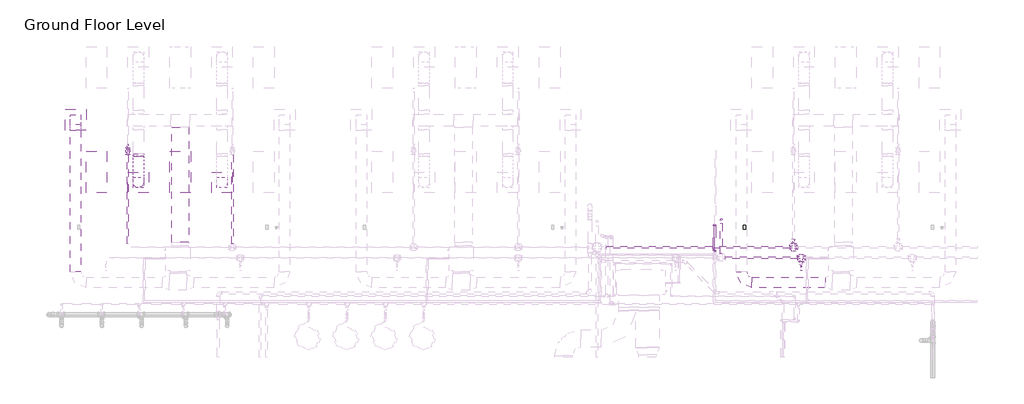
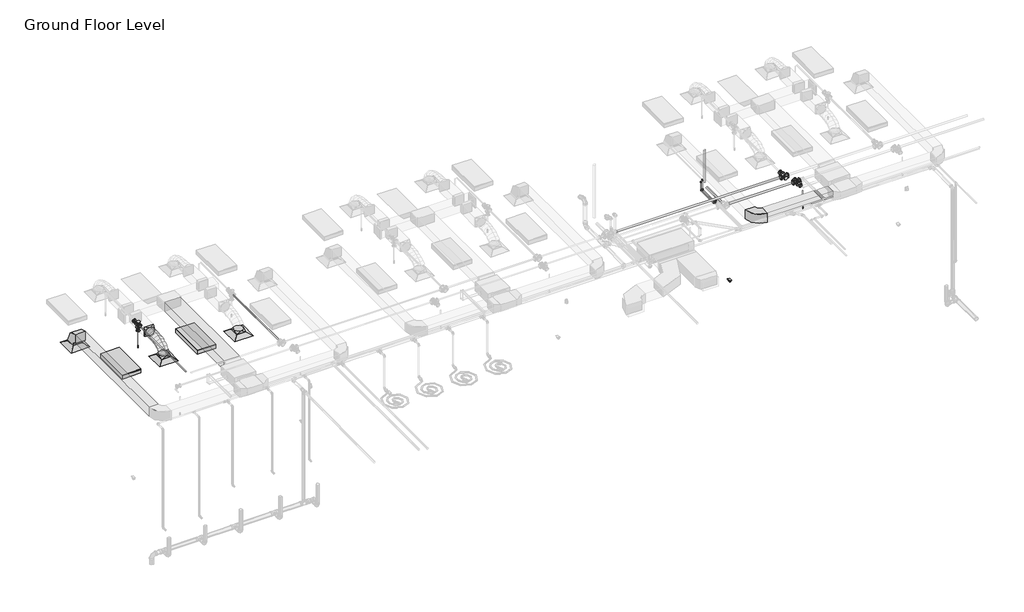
# One storey, part 54 of 74: 15 pipe fittings, 15 pipe segments, 5 duct fittings, 5 duct segments, 3 air terminals, 2 fire suppression terminals, 2 light fixtures, 1 proxy.
"""IFC4 building model written with IfcOpenShell, lengths in millimetres."""

from ifc_helpers import new_model, si_unit, point, frame, frame_2d, origin, place, context, project, spatial, polyline, circle_curve, ellipse_curve, trimmed, segment, composite_curve, outline, extrude, transform, mapped, element, save
from ifc_brep_helpers import plane_surface, cylinder_surface, advanced_brep
from components import m_return_diffuser_600_x_600_face_300_x_300_connection_ff221211, m_duplex_receptacle_standard_10251bba, m_rectangular_elbow_radius_1_w_618da153, m_rectangular_to_round_transition_angle_45_degree_641efff0, m_sprinkler_dry_pendent_hosted_15_mm_dry_pendent_9bda8e11, m_sprinkler_pendent_15_mm_pendent_06fcbd8e, m_troffer_light_parabolic_rectangular1_0600x1200mm_4_lamp_86473d4a, m_elbow_generic_standard_738589b0, m_elbow_generic_standard_463efa77, m_reducer_flanged_cs_class_150_standard_d42b2106, m_reducer_flanged_cs_class_150_standard_a7631c35, m_reducer_flanged_cs_class_150_standard_55262df0, m_tee_round_base_flanged_cs_class_150_standard_dd767e04, m_tee_round_base_flanged_cs_class_150_standard_7e5987a1

model = new_model("IFC4")

# Units and contexts
model_context = context("Model", 3, world=origin())
ifc_project = project(units=[si_unit("LENGTHUNIT", "METRE", prefix="MILLI")], contexts=[model_context])

# Site, building, storey
site = spatial("IfcSite", under=ifc_project)
building = spatial("IfcBuilding", under=site)
storey = spatial("IfcBuildingStorey", under=building, Name="Ground Floor Level", Elevation=900.0)

# Air terminals
placement = place(None, origin())
m_return_diffuser_600_x_600_face_300_x_300_connection_shape = m_return_diffuser_600_x_600_face_300_x_300_connection_ff221211(model_context)
element("IfcAirTerminal", 1, ObjectType="M_Return Diffuser : 600 x 600 Face 300 x 300 Connection", at=placement, inside=storey, context=model_context, shape_type="MappedRepresentation", body=[
    mapped(m_return_diffuser_600_x_600_face_300_x_300_connection_shape, transform((-20937.2327605, 18735.2153534, 3650.0), x_axis=(1.0, 0.0, 0.0), y_axis=(0.0, 1.0, 0.0), z_axis=(0.0, 0.0, 1.0))),
])
element("IfcAirTerminal", 2, ObjectType="M_Supply Diffuser : 600 x 600 Face 300 x 300 Connection", at=placement, inside=storey, context=model_context, shape_type="MappedRepresentation", body=[
    mapped(m_return_diffuser_600_x_600_face_300_x_300_connection_shape, transform((-19137.2327605, 16935.2153534, 3650.0), x_axis=(1.0, 0.0, 0.0), y_axis=(0.0, 1.0, 0.0), z_axis=(0.0, 0.0, 1.0))),
])
element("IfcAirTerminal", 3, ObjectType="M_Supply Diffuser : 600 x 600 Face 300 x 300 Connection", at=placement, inside=storey, context=model_context, shape_type="MappedRepresentation", body=[
    mapped(m_return_diffuser_600_x_600_face_300_x_300_connection_shape, transform((-16737.2327605, 16935.2153534, 3650.0), x_axis=(1.0, 0.0, 0.0), y_axis=(0.0, 1.0, 0.0), z_axis=(0.0, 0.0, 1.0))),
])

# Proxy
m_duplex_receptacle_standard_shape = m_duplex_receptacle_standard_10251bba(model_context)
element("IfcBuildingElementProxy", 4, Name="M_Duplex Receptacle : Standard", ObjectType="M_Duplex Receptacle : Standard", at=placement, inside=storey, context=model_context, shape_type="MappedRepresentation", body=[
    mapped(m_duplex_receptacle_standard_shape, transform((-1747.2327605, 15655.2153534, 1000.0), x_axis=(1.0, 0.0, 0.0), y_axis=(0.0, 1.0, 0.0), z_axis=(0.0, 0.0, 1.0))),
])

# Duct fittings
m_rectangular_elbow_radius_1_w_shape = m_rectangular_elbow_radius_1_w_618da153(model_context)
element("IfcDuctFitting", 5, ObjectType="M_Rectangular Elbow - Radius : 1 W", at=placement, inside=storey, context=model_context, shape_type="MappedRepresentation", body=[
    mapped(m_rectangular_elbow_radius_1_w_shape, transform((-20937.2327605, 18735.2153534, 4075.2881511), x_axis=(0.0, 0.0, 1.0), y_axis=(0.0, -1.0, 0.0), z_axis=(1.0, 0.0, 0.0))),
])
element("IfcDuctFitting", 6, ObjectType="M_Rectangular Elbow - Radius : 1 W", at=placement, inside=storey, context=model_context, shape_type="MappedRepresentation", body=[
    mapped(m_rectangular_elbow_radius_1_w_shape, transform((-1837.2327605, 14069.8153534, 4075.2872564), x_axis=(0.0, -1.0, 0.0), y_axis=(1.0, 0.0, 0.0), z_axis=(0.0, 0.0, 1.0))),
])
m_rectangular_to_round_transition_angle_45_degree_shape = m_rectangular_to_round_transition_angle_45_degree_641efff0(model_context)
element("IfcDuctFitting", 7, ObjectType="M_Rectangular to Round Transition - Angle : 45 Degree", at=placement, inside=storey, context=model_context, shape_type="MappedRepresentation", body=[
    mapped(m_rectangular_to_round_transition_angle_45_degree_shape, transform((-16737.2327605, 16935.2153534, 3751.6), x_axis=(0.0, 0.0, 1.0), y_axis=(-1.0, 0.0, 0.0), z_axis=(0.0, -1.0, 0.0))),
])
element("IfcDuctFitting", 8, ObjectType="M_Rectangular to Round Transition - Angle : 45 Degree", at=placement, inside=storey, context=model_context, shape_type="MappedRepresentation", body=[
    mapped(m_rectangular_to_round_transition_angle_45_degree_shape, transform((-19137.2327605, 16935.2153534, 3751.6), x_axis=(0.0, 0.0, 1.0), y_axis=(-1.0, 0.0, 0.0), z_axis=(0.0, -1.0, 0.0))),
])
element("IfcDuctFitting", 9, ObjectType="M_Rectangular to Round Transition - Angle : 45 Degree", at=placement, inside=storey, context=model_context, shape_type="MappedRepresentation", body=[
    mapped(m_rectangular_to_round_transition_angle_45_degree_shape, transform((-19137.2327605, 17762.5518775, 4099.9994072), x_axis=(0.0, -1.0, 0.0), y_axis=(1.0, 0.0, 0.0), z_axis=(0.0, 0.0, 1.0))),
])

# Duct segments
element("IfcDuctSegment", 10, ObjectType="Flex - Round", at=placement, inside=storey, context=model_context, shape_type="AdvancedBrep", body=[
    advanced_brep(
    [(-18987.2327605, 16935.2153534, 3826.6), (-19137.2327605, 16785.2153534, 3826.6), (-19287.2327605, 16935.2153534, 3826.6), (-19137.2327605, 17085.2153534, 3826.6), (-18987.2327605, 16935.2153534, 3857.9377363), (-19137.2327605, 16785.2153534, 3883.580989), (-19287.2327605, 16935.2153534, 3857.9377363), (-19137.2327605, 17085.2153534, 3832.2944836), (-18987.2327605, 16952.2313024, 3906.2505836), (-19137.2327605, 16818.4933608, 3978.0661859), (-19287.2327605, 16952.2313024, 3906.2505836), (-19137.2327605, 17085.969244, 3834.4349814), (-18987.2327605, 16999.4152275, 3968.711286), (-19137.2327605, 16895.2094297, 4079.6206779), (-19287.2327605, 16999.4152275, 3968.711286), (-19137.2327605, 17103.6210253, 3857.8018941), (-18987.2327605, 17070.9712459, 4016.0699627), (-19137.2327605, 17002.0373501, 4150.3237308), (-19287.2327605, 17070.9712459, 4016.0699627), (-19137.2327605, 17139.9051416, 3881.8161947), (-18987.2327605, 17161.1034747, 4050.4144697), (-19137.2327605, 17117.5428863, 4194.3366298), (-19287.2327605, 17161.1034747, 4050.4144697), (-19137.2327605, 17204.6640631, 3906.4923095), (-18987.2327605, 17264.0160312, 4073.8326625), (-19137.2327605, 17237.4552729, 4221.6232067), (-19287.2327605, 17264.0160312, 4073.8326625), (-19137.2327605, 17290.5767896, 3926.0421182), (-18987.2327605, 17373.9130326, 4088.4123969), (-19137.2327605, 17358.7622742, 4237.7166746), (-19287.2327605, 17373.9130326, 4088.4123969), (-19137.2327605, 17389.0637909, 3939.1081192), (-18987.2327605, 17484.9985959, 4096.2415287), (-19137.2327605, 17477.4933798, 4246.0846519), (-19287.2327605, 17484.9985959, 4096.2415287), (-19137.2327605, 17492.5038121, 3946.3984054), (-18987.2327605, 17591.4768385, 4099.4079135), (-19137.2327605, 17588.7854112, 4249.3941863), (-19287.2327605, 17591.4768385, 4099.4079135), (-19137.2327605, 17594.1682658, 3949.4216408), (-18987.2327605, 17687.5518775, 4099.9994072), (-19137.2327605, 17688.475347, 3950.0022499), (-19287.2327605, 17687.5518775, 4099.9994072), (-19137.2327605, 17686.6284079, 4249.9965645)],
    [
        (0, 1, circle_curve(frame((-19137.2327605, 16935.2153534, 3826.6), z_axis=(0.0, 0.0, -1.0), x_axis=(1.0, 0.0, 0.0)), 150.0)),
        (1, 2, circle_curve(frame((-19137.2327605, 16935.2153534, 3826.6), z_axis=(0.0, 0.0, -1.0), x_axis=(1.0, 0.0, 0.0)), 150.0)),
        (2, 3, circle_curve(frame((-19137.2327605, 16935.2153534, 3826.6), z_axis=(0.0, 0.0, -1.0), x_axis=(1.0, 0.0, 0.0)), 150.0)),
        (3, 0, circle_curve(frame((-19137.2327605, 16935.2153534, 3826.6), z_axis=(0.0, 0.0, -1.0), x_axis=(1.0, 0.0, 0.0)), 150.0)),
        (0, 4),
        (4, 5, ellipse_curve(frame((-19137.2327605, 16935.2153534, 3857.9377363), z_axis=(0.0, -0.1685103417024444, -0.9856998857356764), x_axis=(0.0, 0.9856998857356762, -0.1685103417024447)), 152.1761361, 150.0)),
        (5, 1),
        (5, 6, ellipse_curve(frame((-19137.2327605, 16935.2153534, 3857.9377363), z_axis=(0.0, -0.1685103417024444, -0.9856998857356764), x_axis=(0.0, 0.9856998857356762, -0.1685103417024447)), 152.1761361, 150.0)),
        (6, 2),
        (6, 7, ellipse_curve(frame((-19137.2327605, 16935.2153534, 3857.9377363), z_axis=(0.0, -0.1685103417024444, -0.9856998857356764), x_axis=(0.0, 0.9856998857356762, -0.1685103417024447)), 152.1761361, 150.0)),
        (7, 3),
        (7, 4, ellipse_curve(frame((-19137.2327605, 16935.2153534, 3857.9377363), z_axis=(0.0, -0.1685103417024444, -0.9856998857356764), x_axis=(0.0, 0.9856998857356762, -0.1685103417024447)), 152.1761361, 150.0)),
        (4, 8),
        (8, 9, ellipse_curve(frame((-19137.2327605, 16952.2313024, 3906.2505836), z_axis=(0.0, -0.4730927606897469, -0.8810126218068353), x_axis=(0.0, 0.881012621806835, -0.4730927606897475)), 151.8002561, 150.0)),
        (9, 5),
        (9, 10, ellipse_curve(frame((-19137.2327605, 16952.2313024, 3906.2505836), z_axis=(0.0, -0.4730927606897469, -0.8810126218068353), x_axis=(0.0, 0.881012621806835, -0.4730927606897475)), 151.8002561, 150.0)),
        (10, 6),
        (10, 11, ellipse_curve(frame((-19137.2327605, 16952.2313024, 3906.2505836), z_axis=(0.0, -0.4730927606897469, -0.8810126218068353), x_axis=(0.0, 0.881012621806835, -0.4730927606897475)), 151.8002561, 150.0)),
        (11, 7),
        (11, 8, ellipse_curve(frame((-19137.2327605, 16952.2313024, 3906.2505836), z_axis=(0.0, -0.4730927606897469, -0.8810126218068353), x_axis=(0.0, 0.881012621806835, -0.4730927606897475)), 151.8002561, 150.0)),
        (8, 12),
        (12, 13, ellipse_curve(frame((-19137.2327605, 16999.4152275, 3968.711286), z_axis=(0.0, -0.7287884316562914, -0.6847389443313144), x_axis=(0.0, 0.6847389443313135, -0.7287884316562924)), 152.1832498, 150.0)),
        (13, 9),
        (13, 14, ellipse_curve(frame((-19137.2327605, 16999.4152275, 3968.711286), z_axis=(0.0, -0.7287884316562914, -0.6847389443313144), x_axis=(0.0, 0.6847389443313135, -0.7287884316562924)), 152.1832498, 150.0)),
        (14, 10),
        (14, 15, ellipse_curve(frame((-19137.2327605, 16999.4152275, 3968.711286), z_axis=(0.0, -0.7287884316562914, -0.6847389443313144), x_axis=(0.0, 0.6847389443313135, -0.7287884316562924)), 152.1832498, 150.0)),
        (15, 11),
        (15, 12, ellipse_curve(frame((-19137.2327605, 16999.4152275, 3968.711286), z_axis=(0.0, -0.7287884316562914, -0.6847389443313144), x_axis=(0.0, 0.6847389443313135, -0.7287884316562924)), 152.1832498, 150.0)),
        (12, 16),
        (16, 17, ellipse_curve(frame((-19137.2327605, 17070.9712459, 4016.0699627), z_axis=(0.0, -0.8895864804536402, -0.45676678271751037), x_axis=(0.0, 0.45676678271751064, -0.88958648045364)), 150.9170508, 150.0)),
        (17, 13),
        (17, 18, ellipse_curve(frame((-19137.2327605, 17070.9712459, 4016.0699627), z_axis=(0.0, -0.8895864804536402, -0.45676678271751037), x_axis=(0.0, 0.45676678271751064, -0.88958648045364)), 150.9170508, 150.0)),
        (18, 14),
        (18, 19, ellipse_curve(frame((-19137.2327605, 17070.9712459, 4016.0699627), z_axis=(0.0, -0.8895864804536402, -0.45676678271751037), x_axis=(0.0, 0.45676678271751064, -0.88958648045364)), 150.9170508, 150.0)),
        (19, 15),
        (19, 16, ellipse_curve(frame((-19137.2327605, 17070.9712459, 4016.0699627), z_axis=(0.0, -0.8895864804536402, -0.45676678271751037), x_axis=(0.0, 0.45676678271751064, -0.88958648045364)), 150.9170508, 150.0)),
        (16, 20),
        (20, 21, ellipse_curve(frame((-19137.2327605, 17161.1034747, 4050.4144697), z_axis=(0.0, -0.9571206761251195, -0.2896895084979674), x_axis=(0.0, 0.28968950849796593, -0.9571206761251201)), 150.3699207, 150.0)),
        (21, 17),
        (21, 22, ellipse_curve(frame((-19137.2327605, 17161.1034747, 4050.4144697), z_axis=(0.0, -0.9571206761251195, -0.2896895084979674), x_axis=(0.0, 0.28968950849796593, -0.9571206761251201)), 150.3699207, 150.0)),
        (22, 18),
        (22, 23, ellipse_curve(frame((-19137.2327605, 17161.1034747, 4050.4144697), z_axis=(0.0, -0.9571206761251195, -0.2896895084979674), x_axis=(0.0, 0.28968950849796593, -0.9571206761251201)), 150.3699207, 150.0)),
        (23, 19),
        (23, 20, ellipse_curve(frame((-19137.2327605, 17161.1034747, 4050.4144697), z_axis=(0.0, -0.9571206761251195, -0.2896895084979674), x_axis=(0.0, 0.28968950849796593, -0.9571206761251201)), 150.3699207, 150.0)),
        (20, 24),
        (24, 25, ellipse_curve(frame((-19137.2327605, 17264.0160312, 4073.8326625), z_axis=(0.0, -0.984231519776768, -0.17688503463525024), x_axis=(0.0, 0.17688503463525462, -0.984231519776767)), 150.1583126, 150.0)),
        (25, 21),
        (25, 26, ellipse_curve(frame((-19137.2327605, 17264.0160312, 4073.8326625), z_axis=(0.0, -0.984231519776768, -0.17688503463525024), x_axis=(0.0, 0.17688503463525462, -0.984231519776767)), 150.1583126, 150.0)),
        (26, 22),
        (26, 27, ellipse_curve(frame((-19137.2327605, 17264.0160312, 4073.8326625), z_axis=(0.0, -0.984231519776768, -0.17688503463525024), x_axis=(0.0, 0.17688503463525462, -0.984231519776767)), 150.1583126, 150.0)),
        (27, 23),
        (27, 24, ellipse_curve(frame((-19137.2327605, 17264.0160312, 4073.8326625), z_axis=(0.0, -0.984231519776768, -0.17688503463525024), x_axis=(0.0, 0.17688503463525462, -0.984231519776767)), 150.1583126, 150.0)),
        (24, 28),
        (28, 29, ellipse_curve(frame((-19137.2327605, 17373.9130326, 4088.4123969), z_axis=(0.0, -0.9948907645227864, -0.1009572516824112), x_axis=(0.0, 0.10095725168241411, -0.9948907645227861)), 150.0710259, 150.0)),
        (29, 25),
        (29, 30, ellipse_curve(frame((-19137.2327605, 17373.9130326, 4088.4123969), z_axis=(0.0, -0.9948907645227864, -0.1009572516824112), x_axis=(0.0, 0.10095725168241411, -0.9948907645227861)), 150.0710259, 150.0)),
        (30, 26),
        (30, 31, ellipse_curve(frame((-19137.2327605, 17373.9130326, 4088.4123969), z_axis=(0.0, -0.9948907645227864, -0.1009572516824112), x_axis=(0.0, 0.10095725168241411, -0.9948907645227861)), 150.0710259, 150.0)),
        (31, 27),
        (31, 28, ellipse_curve(frame((-19137.2327605, 17373.9130326, 4088.4123969), z_axis=(0.0, -0.9948907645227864, -0.1009572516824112), x_axis=(0.0, 0.10095725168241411, -0.9948907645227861)), 150.0710259, 150.0)),
        (28, 32),
        (32, 33, ellipse_curve(frame((-19137.2327605, 17484.9985959, 4096.2415287), z_axis=(0.0, -0.9987479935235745, -0.05002444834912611), x_axis=(0.0, 0.050024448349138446, -0.9987479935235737)), 150.030963, 150.0)),
        (33, 29),
        (33, 34, ellipse_curve(frame((-19137.2327605, 17484.9985959, 4096.2415287), z_axis=(0.0, -0.9987479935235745, -0.05002444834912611), x_axis=(0.0, 0.050024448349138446, -0.9987479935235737)), 150.030963, 150.0)),
        (34, 30),
        (34, 35, ellipse_curve(frame((-19137.2327605, 17484.9985959, 4096.2415287), z_axis=(0.0, -0.9987479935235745, -0.05002444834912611), x_axis=(0.0, 0.050024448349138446, -0.9987479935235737)), 150.030963, 150.0)),
        (35, 31),
        (35, 32, ellipse_curve(frame((-19137.2327605, 17484.9985959, 4096.2415287), z_axis=(0.0, -0.9987479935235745, -0.05002444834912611), x_axis=(0.0, 0.050024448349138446, -0.9987479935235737)), 150.030963, 150.0)),
        (32, 36),
        (36, 37, ellipse_curve(frame((-19137.2327605, 17591.4768385, 4099.4079135), z_axis=(0.0, -0.9998390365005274, -0.017941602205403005), x_axis=(0.0, 0.017941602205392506, -0.9998390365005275)), 150.0104189, 150.0)),
        (37, 33),
        (37, 38, ellipse_curve(frame((-19137.2327605, 17591.4768385, 4099.4079135), z_axis=(0.0, -0.9998390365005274, -0.017941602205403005), x_axis=(0.0, 0.017941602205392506, -0.9998390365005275)), 150.0104189, 150.0)),
        (38, 34),
        (38, 39, ellipse_curve(frame((-19137.2327605, 17591.4768385, 4099.4079135), z_axis=(0.0, -0.9998390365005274, -0.017941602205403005), x_axis=(0.0, 0.017941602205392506, -0.9998390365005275)), 150.0104189, 150.0)),
        (39, 35),
        (39, 36, ellipse_curve(frame((-19137.2327605, 17591.4768385, 4099.4079135), z_axis=(0.0, -0.9998390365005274, -0.017941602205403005), x_axis=(0.0, 0.017941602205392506, -0.9998390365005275)), 150.0104189, 150.0)),
        (40, 41, circle_curve(frame((-19137.2327605, 17687.5518775, 4099.9994072), z_axis=(0.0, 0.9999810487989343, 0.006156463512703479), x_axis=(1.0, 0.0, 0.0)), 150.0)),
        (41, 42, circle_curve(frame((-19137.2327605, 17687.5518775, 4099.9994072), z_axis=(0.0, 0.9999810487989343, 0.006156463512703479), x_axis=(1.0, 0.0, 0.0)), 150.0)),
        (42, 43, circle_curve(frame((-19137.2327605, 17687.5518775, 4099.9994072), z_axis=(0.0, 0.9999810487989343, 0.006156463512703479), x_axis=(1.0, 0.0, 0.0)), 150.0)),
        (43, 40, circle_curve(frame((-19137.2327605, 17687.5518775, 4099.9994072), z_axis=(0.0, 0.9999810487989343, 0.006156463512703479), x_axis=(1.0, 0.0, 0.0)), 150.0)),
        (36, 40),
        (43, 37),
        (42, 38),
        (41, 39),
    ],
    [
        plane_surface(frame((-19137.2327605, 16785.2153534, 3826.6), z_axis=(0.0, 0.0, -1.0), x_axis=(1.0, 0.0, 0.0))),
        cylinder_surface(frame((-19137.2327605, 16935.2153534, 3826.6), z_axis=(0.0, 0.0, -1.0), x_axis=(1.0, 0.0, 0.0)), 150.0),
        cylinder_surface(frame((-19137.2327605, 16935.2153534, 3857.9377363), z_axis=(0.0, -0.33220124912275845, -0.9432085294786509), x_axis=(1.0, 0.0, 0.0)), 150.0),
        cylinder_surface(frame((-19137.2327605, 16952.2313024, 3906.2505836), z_axis=(0.0, -0.6027631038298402, -0.7979201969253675), x_axis=(1.0, 0.0, 0.0)), 150.0),
        cylinder_surface(frame((-19137.2327605, 16999.4152275, 3968.711286), z_axis=(0.0, -0.833903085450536, -0.5519109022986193), x_axis=(1.0, 0.0, 0.0)), 150.0),
        cylinder_surface(frame((-19137.2327605, 17070.9712459, 4016.0699627), z_axis=(0.0, -0.9344586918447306, -0.3560715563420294), x_axis=(1.0, 0.0, 0.0)), 150.0),
        cylinder_surface(frame((-19137.2327605, 17161.1034747, 4050.4144697), z_axis=(0.0, -0.9750734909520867, -0.22188214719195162), x_axis=(1.0, 0.0, 0.0)), 150.0),
        cylinder_surface(frame((-19137.2327605, 17264.0160312, 4073.8326625), z_axis=(0.0, -0.9913141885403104, -0.13151494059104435), x_axis=(1.0, 0.0, 0.0)), 150.0),
        cylinder_surface(frame((-19137.2327605, 17373.9130326, 4088.4123969), z_axis=(0.0, -0.9975256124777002, -0.07030400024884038), x_axis=(1.0, 0.0, 0.0)), 150.0),
        cylinder_surface(frame((-19137.2327605, 17484.9985959, 4096.2415287), z_axis=(0.0, -0.9995581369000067, -0.029724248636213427), x_axis=(1.0, 0.0, 0.0)), 150.0),
        plane_surface(frame((-19137.2327605, 17686.6284079, 4249.9965645), z_axis=(0.0, 0.9999810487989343, 0.006156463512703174), x_axis=(1.0, 0.0, 0.0))),
        cylinder_surface(frame((-19137.2327605, 17591.4768385, 4099.4079135), z_axis=(0.0, -0.9999810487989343, -0.006156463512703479), x_axis=(1.0, 0.0, 0.0)), 150.0),
    ],
    [
        (0, [[1, 2, 3, 4]]),
        (1, [[-1, 5, 6, 7]]),
        (1, [[-2, -7, 8, 9]]),
        (1, [[-3, -9, 10, 11]]),
        (1, [[-4, -11, 12, -5]]),
        (2, [[-6, 13, 14, 15]]),
        (2, [[-8, -15, 16, 17]]),
        (2, [[-10, -17, 18, 19]]),
        (2, [[-12, -19, 20, -13]]),
        (3, [[-14, 21, 22, 23]]),
        (3, [[-16, -23, 24, 25]]),
        (3, [[-18, -25, 26, 27]]),
        (3, [[-20, -27, 28, -21]]),
        (4, [[-22, 29, 30, 31]]),
        (4, [[-24, -31, 32, 33]]),
        (4, [[-26, -33, 34, 35]]),
        (4, [[-28, -35, 36, -29]]),
        (5, [[-30, 37, 38, 39]]),
        (5, [[-32, -39, 40, 41]]),
        (5, [[-34, -41, 42, 43]]),
        (5, [[-36, -43, 44, -37]]),
        (6, [[-38, 45, 46, 47]]),
        (6, [[-40, -47, 48, 49]]),
        (6, [[-42, -49, 50, 51]]),
        (6, [[-44, -51, 52, -45]]),
        (7, [[-46, 53, 54, 55]]),
        (7, [[-48, -55, 56, 57]]),
        (7, [[-50, -57, 58, 59]]),
        (7, [[-52, -59, 60, -53]]),
        (8, [[-54, 61, 62, 63]]),
        (8, [[-56, -63, 64, 65]]),
        (8, [[-58, -65, 66, 67]]),
        (8, [[-60, -67, 68, -61]]),
        (9, [[-62, 69, 70, 71]]),
        (9, [[-64, -71, 72, 73]]),
        (9, [[-66, -73, 74, 75]]),
        (9, [[-68, -75, 76, -69]]),
        (10, [[77, 78, 79, 80]]),
        (11, [[-70, 81, -80, 82]]),
        (11, [[-72, -82, -79, 83]]),
        (11, [[-74, -83, -78, 84]]),
        (11, [[-76, -84, -77, -81]]),
    ],
),
])
element("IfcDuctSegment", 11, ObjectType="Radius Elbows / Taps", at=placement, inside=storey, context=model_context, shape_type="SweptSolid", body=[
    extrude(outline(polyline([(-17683.7327605, 15224.0945822), (-18183.7327605, 15224.0945822), (-18183.7327605, 18524.6783949), (-17683.7327605, 18524.6783949), (-17683.7327605, 15224.0945822)])), frame((0.0, 0.0, 3950.0008948), z_axis=(0.0, 0.0, 1.0), x_axis=(1.0, 0.0, 0.0)), (0.0, 0.0, 1.0), 300.0),
])
element("IfcDuctSegment", 12, ObjectType="Radius Elbows / Taps", at=placement, inside=storey, context=model_context, shape_type="SweptSolid", body=[
    extrude(outline(polyline([(-20787.2327605, 14369.8153534), (-21087.2327605, 14369.8153534), (-21087.2327605, 18435.2153534), (-20787.2327605, 18435.2153534), (-20787.2327605, 14369.8153534)])), frame((0.0, 0.0, 3925.2881511), z_axis=(0.0, 0.0, 1.0), x_axis=(1.0, 0.0, 0.0)), (0.0, 0.0, 1.0), 300.0),
])
element("IfcDuctSegment", 13, ObjectType="Radius Elbows / Taps", at=placement, inside=storey, context=model_context, shape_type="SweptSolid", body=[
    extrude(outline(polyline([(-20787.2327605, 18585.2153534), (-21087.2327605, 18585.2153534), (-21087.2327605, 18885.2153534), (-20787.2327605, 18885.2153534), (-20787.2327605, 18585.2153534)])), frame((0.0, 0.0, 3751.6), z_axis=(0.0, 0.0, 1.0), x_axis=(1.0, 0.0, 0.0)), (0.0, 0.0, 1.0), 23.6881511),
])
element("IfcDuctSegment", 14, ObjectType="Radius Elbows / Taps", at=placement, inside=storey, context=model_context, shape_type="SweptSolid", body=[
    extrude(outline(polyline([(-1537.2327605, 13919.8153534), (-1537.2327605, 14219.8153534), (576.4293293, 14219.8153534), (576.4293293, 13919.8153534), (-1537.2327605, 13919.8153534)])), frame((0.0, 0.0, 3925.2872564), z_axis=(0.0, 0.0, 1.0), x_axis=(1.0, 0.0, 0.0)), (0.0, 0.0, 1.0), 300.0),
])

# Fire suppression terminals
m_sprinkler_dry_pendent_hosted_15_mm_dry_pendent_shape = m_sprinkler_dry_pendent_hosted_15_mm_dry_pendent_9bda8e11(model_context)
element("IfcFireSuppressionTerminal", 15, ObjectType="M_Sprinkler - Dry - Pendent - Hosted : 15 mm Dry Pendent", at=placement, inside=storey, context=model_context, shape_type="MappedRepresentation", body=[
    mapped(m_sprinkler_dry_pendent_hosted_15_mm_dry_pendent_shape, transform((-19437.2327605, 17835.2153534, 3650.0), x_axis=(1.0, 0.0, 0.0), y_axis=(0.0, -1.0, 0.0), z_axis=(0.0, 0.0, -1.0))),
])
m_sprinkler_pendent_15_mm_pendent_shape = m_sprinkler_pendent_15_mm_pendent_06fcbd8e(model_context)
element("IfcFireSuppressionTerminal", 16, ObjectType="M_Sprinkler - Pendent : 15 mm Pendent", at=placement, inside=storey, context=model_context, shape_type="MappedRepresentation", body=[
    mapped(m_sprinkler_pendent_15_mm_pendent_shape, transform((-118.3252882, 14412.7243649, 3650.0), x_axis=(1.0, 0.0, 0.0), y_axis=(0.0, 1.0, 0.0), z_axis=(0.0, 0.0, 1.0))),
])

# Light fixtures
m_troffer_light_parabolic_rectangular1_0600x1200mm_4_lamp_shape = m_troffer_light_parabolic_rectangular1_0600x1200mm_4_lamp_86473d4a(model_context)
element("IfcLightFixture", 17, ObjectType="M_Troffer Light - Parabolic Rectangular1 : 0600x1200mm(4 Lamp) - 277V 2", at=placement, inside=storey, context=model_context, shape_type="MappedRepresentation", body=[
    mapped(m_troffer_light_parabolic_rectangular1_0600x1200mm_4_lamp_shape, transform((-20396.6986926, 17253.918855, 3650.0), x_axis=(0.0, 1.0, 0.0), y_axis=(-1.0, 0.0, 0.0), z_axis=(0.0, 0.0, 1.0))),
])
element("IfcLightFixture", 18, ObjectType="M_Troffer Light - Parabolic Rectangular1 : 0600x1200mm(4 Lamp) - 277V 2", at=placement, inside=storey, context=model_context, shape_type="MappedRepresentation", body=[
    mapped(m_troffer_light_parabolic_rectangular1_0600x1200mm_4_lamp_shape, transform((-17996.6986926, 17253.918855, 3650.0), x_axis=(0.0, 1.0, 0.0), y_axis=(-1.0, 0.0, 0.0), z_axis=(0.0, 0.0, 1.0))),
])

# Pipe fittings
m_elbow_generic_standard_shape = m_elbow_generic_standard_738589b0(model_context)
element("IfcPipeFitting", 19, ObjectType="M_Elbow - Generic : Standard", at=placement, inside=storey, context=model_context, shape_type="MappedRepresentation", body=[
    mapped(m_elbow_generic_standard_shape, transform((-2632.5317947, 15715.5935138, 4581.0887163), x_axis=(0.0, 0.0, 1.0), y_axis=(0.0, 1.0, 0.0), z_axis=(-1.0, 0.0, 0.0))),
])
element("IfcPipeFitting", 20, ObjectType="M_Elbow - Generic : Standard", at=placement, inside=storey, context=model_context, shape_type="MappedRepresentation", body=[
    mapped(m_elbow_generic_standard_shape, transform((-2632.5317947, 14990.7777393, 4365.0), x_axis=(0.0, 1.0, 0.0), y_axis=(0.0, 0.0, -1.0), z_axis=(-1.0, 0.0, 0.0))),
])
element("IfcPipeFitting", 21, ObjectType="M_Elbow - Generic : Standard", at=placement, inside=storey, context=model_context, shape_type="MappedRepresentation", body=[
    mapped(m_elbow_generic_standard_shape, transform((-2632.5317947, 15715.5935138, 4300.0), x_axis=(0.0, 0.0, -1.0), y_axis=(0.0, -1.0, 0.0), z_axis=(-1.0, 0.0, 0.0))),
])
element("IfcPipeFitting", 22, ObjectType="M_Elbow - Generic : Standard", at=placement, inside=storey, context=model_context, shape_type="MappedRepresentation", body=[
    mapped(m_elbow_generic_standard_shape, transform((-2632.5317947, 14990.7777393, 4300.0), x_axis=(0.0, 0.0, -1.0), y_axis=(0.0, 1.0, 0.0), z_axis=(1.0, 0.0, 0.0))),
])
m_elbow_generic_standard_2_shape = m_elbow_generic_standard_463efa77(model_context)
element("IfcPipeFitting", 23, ObjectType="M_Elbow - Generic : Standard", at=placement, inside=storey, context=model_context, shape_type="MappedRepresentation", body=[
    mapped(m_elbow_generic_standard_2_shape, transform((-2579.6952605, 15716.2153534, 4634.3568617), x_axis=(0.0, 0.0, 1.0), y_axis=(0.0, 1.0, 0.0), z_axis=(-1.0, 0.0, 0.0))),
])
element("IfcPipeFitting", 24, ObjectType="M_Elbow - Generic : Standard", at=placement, inside=storey, context=model_context, shape_type="MappedRepresentation", body=[
    mapped(m_elbow_generic_standard_2_shape, transform((-2579.6952605, 14974.394156, 4380.0), x_axis=(0.0, 1.0, 0.0), y_axis=(0.0, 0.0, -1.0), z_axis=(-1.0, 0.0, 0.0))),
])
element("IfcPipeFitting", 25, ObjectType="M_Elbow - Generic : Standard", at=placement, inside=storey, context=model_context, shape_type="MappedRepresentation", body=[
    mapped(m_elbow_generic_standard_2_shape, transform((-2579.6952605, 15716.2153534, 4300.0), x_axis=(0.0, 0.0, -1.0), y_axis=(0.0, -1.0, 0.0), z_axis=(-1.0, 0.0, 0.0))),
])
element("IfcPipeFitting", 26, ObjectType="M_Elbow - Generic : Standard", at=placement, inside=storey, context=model_context, shape_type="MappedRepresentation", body=[
    mapped(m_elbow_generic_standard_2_shape, transform((-2579.6952605, 14974.394156, 4300.0), x_axis=(0.0, 0.0, -1.0), y_axis=(0.0, 1.0, 0.0), z_axis=(1.0, 0.0, 0.0))),
])
m_reducer_flanged_cs_class_150_standard_shape = m_reducer_flanged_cs_class_150_standard_d42b2106(model_context)
element("IfcPipeFitting", 27, ObjectType="M_Reducer - Flanged - CS - Class 150 : Standard", at=placement, inside=storey, context=model_context, shape_type="MappedRepresentation", body=[
    mapped(m_reducer_flanged_cs_class_150_standard_shape, transform((-19437.2327605, 17835.2153534, 4259.2914063), x_axis=(0.0, 0.0, -1.0), y_axis=(-1.0, 0.0, 0.0), z_axis=(0.0, 1.0, 0.0))),
])
element("IfcPipeFitting", 28, ObjectType="M_Reducer - Flanged - CS - Class 150 : Standard", at=placement, inside=storey, context=model_context, shape_type="MappedRepresentation", body=[
    mapped(m_reducer_flanged_cs_class_150_standard_shape, transform((-19437.2327605, 17935.9239471, 4360.0), x_axis=(0.0, 1.0, 0.0), y_axis=(-1.0, 0.0, 0.0), z_axis=(0.0, 0.0, 1.0))),
])
m_reducer_flanged_cs_class_150_standard_2_shape = m_reducer_flanged_cs_class_150_standard_a7631c35(model_context)
element("IfcPipeFitting", 29, ObjectType="M_Reducer - Flanged - CS - Class 150 : Standard", at=placement, inside=storey, context=model_context, shape_type="MappedRepresentation", body=[
    mapped(m_reducer_flanged_cs_class_150_standard_2_shape, transform((-337.2327605, 15187.2009828, 4360.0), x_axis=(0.0, 1.0, 0.0), y_axis=(-1.0, 0.0, 0.0), z_axis=(0.0, 0.0, 1.0))),
])
m_reducer_flanged_cs_class_150_standard_3_shape = m_reducer_flanged_cs_class_150_standard_55262df0(model_context)
element("IfcPipeFitting", 30, ObjectType="M_Reducer - Flanged - CS - Class 150 : Standard", at=placement, inside=storey, context=model_context, shape_type="MappedRepresentation", body=[
    mapped(m_reducer_flanged_cs_class_150_standard_3_shape, transform((-118.3252882, 14659.4681847, 4291.0943441), x_axis=(0.0, -1.0, 0.0), y_axis=(1.0, 0.0, 0.0), z_axis=(0.0, 0.0, 1.0))),
])
m_tee_round_base_flanged_cs_class_150_standard_shape = m_tee_round_base_flanged_cs_class_150_standard_dd767e04(model_context)
element("IfcPipeFitting", 31, ObjectType="M_Tee Round Base - Flanged - CS - Class 150 : Standard", at=placement, inside=storey, context=model_context, shape_type="MappedRepresentation", body=[
    mapped(m_tee_round_base_flanged_cs_class_150_standard_shape, transform((-118.3252882, 14773.4681847, 4291.0943441), x_axis=(-1.0, 0.0, 0.0), y_axis=(0.0, 1.0, 0.0), z_axis=(0.0, 0.0, -1.0))),
])
element("IfcPipeFitting", 32, ObjectType="M_Tee Round Base - Flanged - CS - Class 150 : Standard", at=placement, inside=storey, context=model_context, shape_type="MappedRepresentation", body=[
    mapped(m_tee_round_base_flanged_cs_class_150_standard_shape, transform((-337.2327605, 15073.2009828, 4360.0), x_axis=(-1.0, 0.0, 0.0), y_axis=(0.0, -1.0, 0.0), z_axis=(0.0, 0.0, 1.0))),
])
m_tee_round_base_flanged_cs_class_150_standard_2_shape = m_tee_round_base_flanged_cs_class_150_standard_7e5987a1(model_context)
element("IfcPipeFitting", 33, ObjectType="M_Tee Round Base - Flanged - CS - Class 150 : Standard", at=placement, inside=storey, context=model_context, shape_type="MappedRepresentation", body=[
    mapped(m_tee_round_base_flanged_cs_class_150_standard_2_shape, transform((-19437.2327605, 17835.2153534, 4360.0), x_axis=(0.0, 1.0, 0.0), y_axis=(0.0, 0.0, 1.0), z_axis=(1.0, 0.0, 0.0))),
])

# Pipe segments
element("IfcPipeSegment", 34, ObjectType="Copper", at=placement, inside=storey, context=model_context, shape_type="SweptSolid", body=[
    extrude(outline(composite_curve([segment(trimmed(circle_curve(frame_2d((4300.0, -2579.6952605)), 14.5), [point((4300.0, -2594.1952605))], [point((4285.5, -2579.6952605))], False, "CARTESIAN"), True, "CONTINUOUS"), segment(trimmed(circle_curve(frame_2d((4300.0, -2579.6952605)), 14.5), [point((4285.5, -2579.6952605))], [point((4300.0, -2565.1952605))], False, "CARTESIAN"), True, "CONTINUOUS"), segment(trimmed(circle_curve(frame_2d((4300.0, -2579.6952605)), 14.5), [point((4300.0, -2565.1952605))], [point((4314.5, -2579.6952605))], False, "CARTESIAN"), True, "CONTINUOUS"), segment(trimmed(circle_curve(frame_2d((4300.0, -2579.6952605)), 14.5), [point((4314.5, -2579.6952605))], [point((4300.0, -2594.1952605))], False, "CARTESIAN"), True, "CONTINUOUS")], self_intersect=False)), frame((0.0, 14996.619156, 0.0), z_axis=(0.0, 1.0, 0.0), x_axis=(0.0, 0.0, 1.0)), (0.0, 0.0, 1.0), 697.3711973),
])
element("IfcPipeSegment", 35, ObjectType="Copper", at=placement, inside=storey, context=model_context, shape_type="SweptSolid", body=[
    extrude(outline(composite_curve([segment(trimmed(circle_curve(frame_2d((4300.0, -2632.5317947)), 9.75), [point((4300.0, -2642.2817947))], [point((4290.25, -2632.5317947))], False, "CARTESIAN"), True, "CONTINUOUS"), segment(trimmed(circle_curve(frame_2d((4300.0, -2632.5317947)), 9.75), [point((4290.25, -2632.5317947))], [point((4300.0, -2622.7817947))], False, "CARTESIAN"), True, "CONTINUOUS"), segment(trimmed(circle_curve(frame_2d((4300.0, -2632.5317947)), 9.75), [point((4300.0, -2622.7817947))], [point((4309.75, -2632.5317947))], False, "CARTESIAN"), True, "CONTINUOUS"), segment(trimmed(circle_curve(frame_2d((4300.0, -2632.5317947)), 9.75), [point((4309.75, -2632.5317947))], [point((4300.0, -2642.2817947))], False, "CARTESIAN"), True, "CONTINUOUS")], self_intersect=False)), frame((0.0, 15008.2402393, 0.0), z_axis=(0.0, 1.0, 0.0), x_axis=(0.0, 0.0, 1.0)), (0.0, 0.0, 1.0), 689.8907745),
])
element("IfcPipeSegment", 36, ObjectType="Copper", at=placement, inside=storey, context=model_context, shape_type="SweptSolid", body=[
    extrude(outline(composite_curve([segment(trimmed(circle_curve(frame_2d((-2632.5317947, 15715.5935138)), 9.75), [point((-2642.2817947, 15715.5935138))], [point((-2632.5317947, 15725.3435138))], False, "CARTESIAN"), True, "CONTINUOUS"), segment(trimmed(circle_curve(frame_2d((-2632.5317947, 15715.5935138)), 9.75), [point((-2632.5317947, 15725.3435138))], [point((-2622.7817947, 15715.5935138))], False, "CARTESIAN"), True, "CONTINUOUS"), segment(trimmed(circle_curve(frame_2d((-2632.5317947, 15715.5935138)), 9.75), [point((-2622.7817947, 15715.5935138))], [point((-2632.5317947, 15705.8435138))], False, "CARTESIAN"), True, "CONTINUOUS"), segment(trimmed(circle_curve(frame_2d((-2632.5317947, 15715.5935138)), 9.75), [point((-2632.5317947, 15705.8435138))], [point((-2642.2817947, 15715.5935138))], False, "CARTESIAN"), True, "CONTINUOUS")], self_intersect=False)), frame((0.0, 0.0, 4317.4625), z_axis=(0.0, 0.0, 1.0), x_axis=(1.0, 0.0, 0.0)), (0.0, 0.0, 1.0), 246.1637163),
])
element("IfcPipeSegment", 37, ObjectType="Copper", at=placement, inside=storey, context=model_context, shape_type="SweptSolid", body=[
    extrude(outline(composite_curve([segment(trimmed(circle_curve(frame_2d((-2579.6952605, 15716.2153534)), 14.5), [point((-2594.1952605, 15716.2153534))], [point((-2579.6952605, 15730.7153534))], False, "CARTESIAN"), True, "CONTINUOUS"), segment(trimmed(circle_curve(frame_2d((-2579.6952605, 15716.2153534)), 14.5), [point((-2579.6952605, 15730.7153534))], [point((-2565.1952605, 15716.2153534))], False, "CARTESIAN"), True, "CONTINUOUS"), segment(trimmed(circle_curve(frame_2d((-2579.6952605, 15716.2153534)), 14.5), [point((-2565.1952605, 15716.2153534))], [point((-2579.6952605, 15701.7153534))], False, "CARTESIAN"), True, "CONTINUOUS"), segment(trimmed(circle_curve(frame_2d((-2579.6952605, 15716.2153534)), 14.5), [point((-2579.6952605, 15701.7153534))], [point((-2594.1952605, 15716.2153534))], False, "CARTESIAN"), True, "CONTINUOUS")], self_intersect=False)), frame((0.0, 0.0, 4322.225), z_axis=(0.0, 0.0, 1.0), x_axis=(1.0, 0.0, 0.0)), (0.0, 0.0, 1.0), 289.9068617),
])
element("IfcPipeSegment", 38, ObjectType="Copper", at=placement, inside=storey, context=model_context, shape_type="SweptSolid", body=[
    extrude(outline(composite_curve([segment(trimmed(circle_curve(frame_2d((-2579.6952605, 14974.394156)), 14.5), [point((-2565.1952605, 14974.394156))], [point((-2579.6952605, 14959.894156))], False, "CARTESIAN"), True, "CONTINUOUS"), segment(trimmed(circle_curve(frame_2d((-2579.6952605, 14974.394156)), 14.5), [point((-2579.6952605, 14959.894156))], [point((-2594.1952605, 14974.394156))], False, "CARTESIAN"), True, "CONTINUOUS"), segment(trimmed(circle_curve(frame_2d((-2579.6952605, 14974.394156)), 14.5), [point((-2594.1952605, 14974.394156))], [point((-2579.6952605, 14988.894156))], False, "CARTESIAN"), True, "CONTINUOUS"), segment(trimmed(circle_curve(frame_2d((-2579.6952605, 14974.394156)), 14.5), [point((-2579.6952605, 14988.894156))], [point((-2565.1952605, 14974.394156))], False, "CARTESIAN"), True, "CONTINUOUS")], self_intersect=False)), frame((0.0, 0.0, 4322.225), z_axis=(0.0, 0.0, 1.0), x_axis=(1.0, 0.0, 0.0)), (0.0, 0.0, 1.0), 35.55),
])
element("IfcPipeSegment", 39, ObjectType="Copper", at=placement, inside=storey, context=model_context, shape_type="SweptSolid", body=[
    extrude(outline(composite_curve([segment(trimmed(circle_curve(frame_2d((-2632.5317947, 14990.7777393)), 9.75), [point((-2622.7817947, 14990.7777393))], [point((-2632.5317947, 14981.0277393))], False, "CARTESIAN"), True, "CONTINUOUS"), segment(trimmed(circle_curve(frame_2d((-2632.5317947, 14990.7777393)), 9.75), [point((-2632.5317947, 14981.0277393))], [point((-2642.2817947, 14990.7777393))], False, "CARTESIAN"), True, "CONTINUOUS"), segment(trimmed(circle_curve(frame_2d((-2632.5317947, 14990.7777393)), 9.75), [point((-2642.2817947, 14990.7777393))], [point((-2632.5317947, 15000.5277393))], False, "CARTESIAN"), True, "CONTINUOUS"), segment(trimmed(circle_curve(frame_2d((-2632.5317947, 14990.7777393)), 9.75), [point((-2632.5317947, 15000.5277393))], [point((-2622.7817947, 14990.7777393))], False, "CARTESIAN"), True, "CONTINUOUS")], self_intersect=False)), frame((0.0, 0.0, 4317.4625), z_axis=(0.0, 0.0, 1.0), x_axis=(1.0, 0.0, 0.0)), (0.0, 0.0, 1.0), 30.075),
])
element("IfcPipeSegment", 40, ObjectType="Steel flanged", at=placement, inside=storey, context=model_context, shape_type="SweptSolid", body=[
    extrude(outline(composite_curve([segment(trimmed(circle_curve(frame_2d((-118.3252882, 14412.7243649)), 10.668), [point((-128.9932882, 14412.7243649))], [point((-118.3252882, 14423.3923649))], False, "CARTESIAN"), True, "CONTINUOUS"), segment(trimmed(circle_curve(frame_2d((-118.3252882, 14412.7243649)), 10.668), [point((-118.3252882, 14423.3923649))], [point((-107.6572882, 14412.7243649))], False, "CARTESIAN"), True, "CONTINUOUS"), segment(trimmed(circle_curve(frame_2d((-118.3252882, 14412.7243649)), 10.668), [point((-107.6572882, 14412.7243649))], [point((-118.3252882, 14402.0563649))], False, "CARTESIAN"), True, "CONTINUOUS"), segment(trimmed(circle_curve(frame_2d((-118.3252882, 14412.7243649)), 10.668), [point((-118.3252882, 14402.0563649))], [point((-128.9932882, 14412.7243649))], False, "CARTESIAN"), True, "CONTINUOUS")], self_intersect=False)), frame((0.0, 0.0, 3650.0), z_axis=(0.0, 0.0, 1.0), x_axis=(1.0, 0.0, 0.0)), (0.0, 0.0, 1.0), 548.2668816),
])
element("IfcPipeSegment", 41, ObjectType="Steel flanged", at=placement, inside=storey, context=model_context, shape_type="SweptSolid", body=[
    extrude(outline(composite_curve([segment(trimmed(circle_curve(frame_2d((4291.0943441, -118.3252882)), 10.668), [point((4291.0943441, -107.6572882))], [point((4301.7623441, -118.3252882))], False, "CARTESIAN"), True, "CONTINUOUS"), segment(trimmed(circle_curve(frame_2d((4291.0943441, -118.3252882)), 10.668), [point((4301.7623441, -118.3252882))], [point((4291.0943441, -128.9932882))], False, "CARTESIAN"), True, "CONTINUOUS"), segment(trimmed(circle_curve(frame_2d((4291.0943441, -118.3252882)), 10.668), [point((4291.0943441, -128.9932882))], [point((4280.4263441, -118.3252882))], False, "CARTESIAN"), True, "CONTINUOUS"), segment(trimmed(circle_curve(frame_2d((4291.0943441, -118.3252882)), 10.668), [point((4280.4263441, -118.3252882))], [point((4291.0943441, -107.6572882))], False, "CARTESIAN"), True, "CONTINUOUS")], self_intersect=False)), frame((0.0, 14505.7329586, 0.0), z_axis=(0.0, 1.0, 0.0), x_axis=(0.0, 0.0, 1.0)), (0.0, 0.0, 1.0), 26.7352261),
])
element("IfcPipeSegment", 42, ObjectType="Steel flanged", at=placement, inside=storey, context=model_context, shape_type="SweptSolid", body=[
    extrude(outline(composite_curve([segment(trimmed(circle_curve(frame_2d((14773.4681847, 4291.0943441)), 30.1625), [point((14743.3056847, 4291.0943441))], [point((14773.4681847, 4321.2568441))], False, "CARTESIAN"), True, "CONTINUOUS"), segment(trimmed(circle_curve(frame_2d((14773.4681847, 4291.0943441)), 30.1625), [point((14773.4681847, 4321.2568441))], [point((14803.6306847, 4291.0943441))], False, "CARTESIAN"), True, "CONTINUOUS"), segment(trimmed(circle_curve(frame_2d((14773.4681847, 4291.0943441)), 30.1625), [point((14803.6306847, 4291.0943441))], [point((14773.4681847, 4260.9318441))], False, "CARTESIAN"), True, "CONTINUOUS"), segment(trimmed(circle_curve(frame_2d((14773.4681847, 4291.0943441)), 30.1625), [point((14773.4681847, 4260.9318441))], [point((14743.3056847, 4291.0943441))], False, "CARTESIAN"), True, "CONTINUOUS")], self_intersect=False)), frame((-2299.9259545, 0.0, 0.0), z_axis=(1.0, 0.0, 0.0), x_axis=(0.0, 1.0, 0.0)), (0.0, 0.0, 1.0), 2067.6006663),
])
element("IfcPipeSegment", 43, ObjectType="Steel flanged", at=placement, inside=storey, context=model_context, shape_type="SweptSolid", body=[
    extrude(outline(composite_curve([segment(trimmed(circle_curve(frame_2d((4291.0943441, -2413.9259545)), 30.1625), [point((4291.0943441, -2383.7634545))], [point((4321.2568441, -2413.9259545))], False, "CARTESIAN"), True, "CONTINUOUS"), segment(trimmed(circle_curve(frame_2d((4291.0943441, -2413.9259545)), 30.1625), [point((4321.2568441, -2413.9259545))], [point((4291.0943441, -2444.0884545))], False, "CARTESIAN"), True, "CONTINUOUS"), segment(trimmed(circle_curve(frame_2d((4291.0943441, -2413.9259545)), 30.1625), [point((4291.0943441, -2444.0884545))], [point((4260.9318441, -2413.9259545))], False, "CARTESIAN"), True, "CONTINUOUS"), segment(trimmed(circle_curve(frame_2d((4291.0943441, -2413.9259545)), 30.1625), [point((4260.9318441, -2413.9259545))], [point((4291.0943441, -2383.7634545))], False, "CARTESIAN"), True, "CONTINUOUS")], self_intersect=False)), frame((0.0, 14887.4681847, 0.0), z_axis=(0.0, 1.0, 0.0), x_axis=(0.0, 0.0, 1.0)), (0.0, 0.0, 1.0), 871.5409053),
])
element("IfcPipeSegment", 44, ObjectType="Steel flanged", at=placement, inside=storey, context=model_context, shape_type="SweptSolid", body=[
    extrude(outline(composite_curve([segment(trimmed(circle_curve(frame_2d((-2413.9259545, 15873.00909)), 30.1625), [point((-2444.0884545, 15873.00909))], [point((-2413.9259545, 15903.17159))], False, "CARTESIAN"), True, "CONTINUOUS"), segment(trimmed(circle_curve(frame_2d((-2413.9259545, 15873.00909)), 30.1625), [point((-2413.9259545, 15903.17159))], [point((-2383.7634545, 15873.00909))], False, "CARTESIAN"), True, "CONTINUOUS"), segment(trimmed(circle_curve(frame_2d((-2413.9259545, 15873.00909)), 30.1625), [point((-2383.7634545, 15873.00909))], [point((-2413.9259545, 15842.84659))], False, "CARTESIAN"), True, "CONTINUOUS"), segment(trimmed(circle_curve(frame_2d((-2413.9259545, 15873.00909)), 30.1625), [point((-2413.9259545, 15842.84659))], [point((-2444.0884545, 15873.00909))], False, "CARTESIAN"), True, "CONTINUOUS")], self_intersect=False)), frame((0.0, 0.0, 4405.2754753), z_axis=(0.0, 0.0, 1.0), x_axis=(1.0, 0.0, 0.0)), (0.0, 0.0, 1.0), 1080.7245247),
])
element("IfcPipeSegment", 45, ObjectType="Steel flanged", at=placement, inside=storey, context=model_context, shape_type="SweptSolid", body=[
    extrude(outline(composite_curve([segment(trimmed(circle_curve(frame_2d((-19437.2327605, 17835.2153534)), 10.668), [point((-19447.9007605, 17835.2153534))], [point((-19437.2327605, 17845.8833534))], False, "CARTESIAN"), True, "CONTINUOUS"), segment(trimmed(circle_curve(frame_2d((-19437.2327605, 17835.2153534)), 10.668), [point((-19437.2327605, 17845.8833534))], [point((-19426.5647605, 17835.2153534))], False, "CARTESIAN"), True, "CONTINUOUS"), segment(trimmed(circle_curve(frame_2d((-19437.2327605, 17835.2153534)), 10.668), [point((-19426.5647605, 17835.2153534))], [point((-19437.2327605, 17824.5473534))], False, "CARTESIAN"), True, "CONTINUOUS"), segment(trimmed(circle_curve(frame_2d((-19437.2327605, 17835.2153534)), 10.668), [point((-19437.2327605, 17824.5473534))], [point((-19447.9007605, 17835.2153534))], False, "CARTESIAN"), True, "CONTINUOUS")], self_intersect=False)), frame((0.0, 0.0, 3650.0), z_axis=(0.0, 0.0, 1.0), x_axis=(1.0, 0.0, 0.0)), (0.0, 0.0, 1.0), 495.2914063),
])
element("IfcPipeSegment", 46, ObjectType="Steel flanged", at=placement, inside=storey, context=model_context, shape_type="SweptSolid", body=[
    extrude(outline(composite_curve([segment(trimmed(circle_curve(frame_2d((4360.0, -19437.2327605)), 16.7005), [point((4360.0, -19453.9332605))], [point((4343.2995, -19437.2327605))], False, "CARTESIAN"), True, "CONTINUOUS"), segment(trimmed(circle_curve(frame_2d((4360.0, -19437.2327605)), 16.7005), [point((4343.2995, -19437.2327605))], [point((4360.0, -19420.5322605))], False, "CARTESIAN"), True, "CONTINUOUS"), segment(trimmed(circle_curve(frame_2d((4360.0, -19437.2327605)), 16.7005), [point((4360.0, -19420.5322605))], [point((4376.7005, -19437.2327605))], False, "CARTESIAN"), True, "CONTINUOUS"), segment(trimmed(circle_curve(frame_2d((4360.0, -19437.2327605)), 16.7005), [point((4376.7005, -19437.2327605))], [point((4360.0, -19453.9332605))], False, "CARTESIAN"), True, "CONTINUOUS")], self_intersect=False)), frame((0.0, 15173.9095765, 0.0), z_axis=(0.0, 1.0, 0.0), x_axis=(0.0, 0.0, 1.0)), (0.0, 0.0, 1.0), 2560.5971831),
])
element("IfcPipeSegment", 47, ObjectType="Steel flanged", at=placement, inside=storey, context=model_context, shape_type="SweptSolid", body=[
    extrude(outline(composite_curve([segment(trimmed(circle_curve(frame_2d((4360.0, -16437.2327605)), 16.7005), [point((4360.0, -16453.9332605))], [point((4343.2995, -16437.2327605))], False, "CARTESIAN"), True, "CONTINUOUS"), segment(trimmed(circle_curve(frame_2d((4360.0, -16437.2327605)), 16.7005), [point((4343.2995, -16437.2327605))], [point((4360.0, -16420.5322605))], False, "CARTESIAN"), True, "CONTINUOUS"), segment(trimmed(circle_curve(frame_2d((4360.0, -16437.2327605)), 16.7005), [point((4360.0, -16420.5322605))], [point((4376.7005, -16437.2327605))], False, "CARTESIAN"), True, "CONTINUOUS"), segment(trimmed(circle_curve(frame_2d((4360.0, -16437.2327605)), 16.7005), [point((4376.7005, -16437.2327605))], [point((4360.0, -16453.9332605))], False, "CARTESIAN"), True, "CONTINUOUS")], self_intersect=False)), frame((0.0, 15173.9095765, 0.0), z_axis=(0.0, 1.0, 0.0), x_axis=(0.0, 0.0, 1.0)), (0.0, 0.0, 1.0), 2560.5971831),
])
element("IfcPipeSegment", 48, ObjectType="Steel flanged", at=placement, inside=storey, context=model_context, shape_type="SweptSolid", body=[
    extrude(outline(composite_curve([segment(trimmed(circle_curve(frame_2d((15073.2009828, 4360.0)), 30.1625), [point((15043.0384828, 4360.0))], [point((15073.2009828, 4390.1625))], False, "CARTESIAN"), True, "CONTINUOUS"), segment(trimmed(circle_curve(frame_2d((15073.2009828, 4360.0)), 30.1625), [point((15073.2009828, 4390.1625))], [point((15103.3634828, 4360.0))], False, "CARTESIAN"), True, "CONTINUOUS"), segment(trimmed(circle_curve(frame_2d((15073.2009828, 4360.0)), 30.1625), [point((15103.3634828, 4360.0))], [point((15073.2009828, 4329.8375))], False, "CARTESIAN"), True, "CONTINUOUS"), segment(trimmed(circle_curve(frame_2d((15073.2009828, 4360.0)), 30.1625), [point((15073.2009828, 4329.8375))], [point((15043.0384828, 4360.0))], False, "CARTESIAN"), True, "CONTINUOUS")], self_intersect=False)), frame((-5711.130502, 0.0, 0.0), z_axis=(1.0, 0.0, 0.0), x_axis=(0.0, 1.0, 0.0)), (0.0, 0.0, 1.0), 5259.8977415),
])

save(model, "model.ifc")
